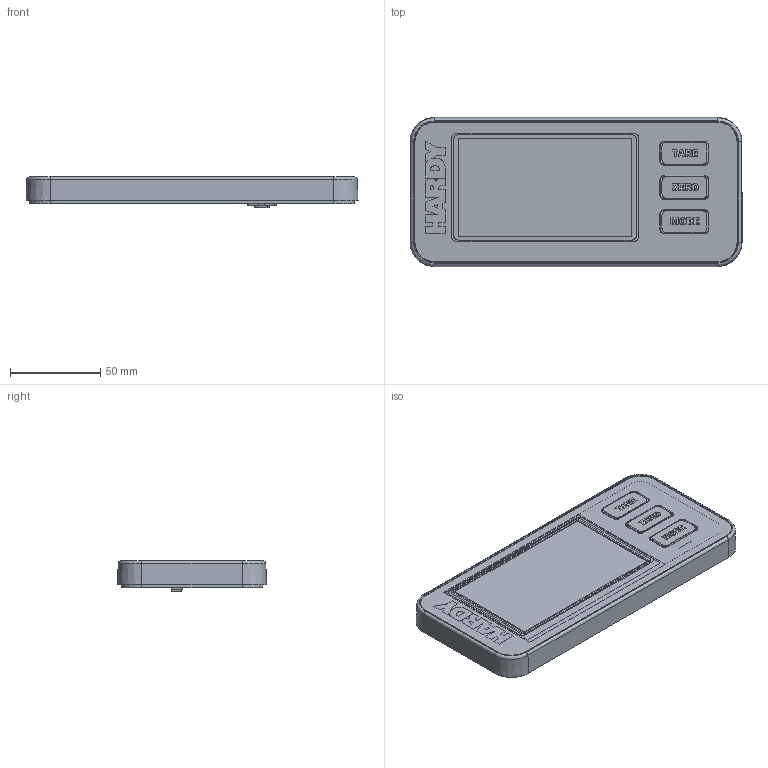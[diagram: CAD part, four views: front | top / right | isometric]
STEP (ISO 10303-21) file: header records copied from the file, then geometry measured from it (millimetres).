
FILE_DESCRIPTION (( 'STEP AP214' ), '1' );
FILE_NAME ('HI6130.STEP', '2023-10-18T15:24:04', ( '' ), ( '' ), 'SwSTEP 2.0', 'SolidWorks 2020', '' );
FILE_SCHEMA (( 'AUTOMOTIVE_DESIGN' ));
Length unit declared in the file: millimetre
Products named in the file (20): 0517-0138-01-0_REV X2; 0524-0039-01-0_STIFFENER; LCD Resistive Touch Screen; 2118-0378-0; RGB LCD; 2158-0035-0_Molex_541324062; 0530-0884-01-0; 0524-0039-01-0_GASKET; pan cross head_am_B18.6.7M - M2 x 0.4 x 4 Type I Cross Recessed PHMS --4N; PWB_0534-0587-01-0_REV X3; HI6130; RGB LCD_Tail; 0517-0138-01-0_Circuit Tail; PWA_0535-0587-XX-0_REV X3; 0579-0034-01-0; 0524-0039-01-0; 2158-0021-0; 2450-0041-0; 2158-0020-0
Assembly tree (22 placements, depth 3):
  HI6130
    0579-0034-01-0
    2450-0041-0
      RGB LCD
      LCD Resistive Touch Screen
      RGB LCD_Tail
    0517-0138-01-0_REV X2
      0517-0138-01-0_REV X2
      0517-0138-01-0_Circuit Tail
    PWA_0535-0587-XX-0_REV X3
      PWB_0534-0587-01-0_REV X3
      2158-0020-0
      2158-0035-0_Molex_541324062
      2118-0378-0
      2158-0021-0
    pan cross head_am_B18.6.7M - M2 x 0.4 x 4 Type I Cross Recessed PHMS --4N  x4
    0524-0039-01-0
      0524-0039-01-0_GASKET
      0524-0039-01-0_STIFFENER
    0530-0884-01-0
Bounding box: 184.4 x 82.8 x 17.31 mm (x, y, z)
Volume: 112772.9 mm3; surface area: 178779.4 mm2
Topology: 45 solids, 45 shells, 7042 faces, 19227 edges, 12602 vertices
Faces by surface type: plane 5185, bspline 890, cylinder 749, torus 121, cone 69, sphere 28
Entity records: 282235 total; most frequent: CARTESIAN_POINT 52491, ORIENTED_EDGE 38118, DIRECTION 31240, EDGE_CURVE 19059, VECTOR 15510, LINE 15510, VERTEX_POINT 12512, AXIS2_PLACEMENT_3D 7865
